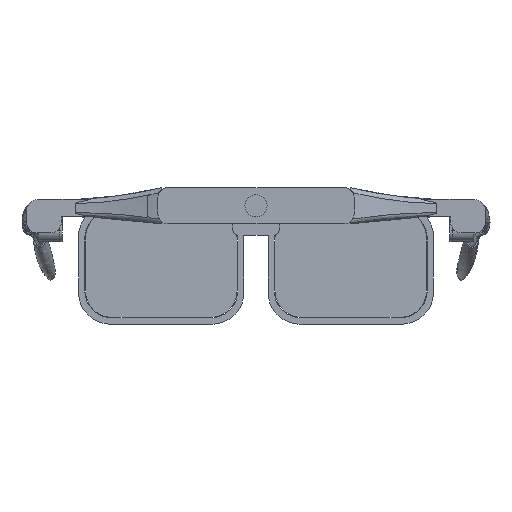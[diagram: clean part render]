
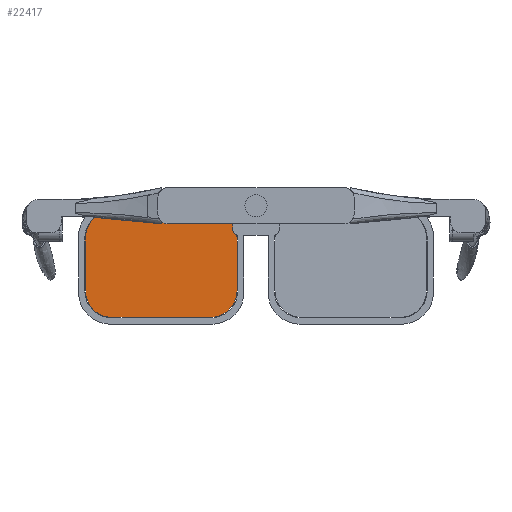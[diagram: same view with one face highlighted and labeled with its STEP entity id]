
A CAD part, front view. The second image highlights one B-rep face of the part: STEP entity #22417.
In plain terms, the highlighted planar face has unit normal (0, -1, 0).
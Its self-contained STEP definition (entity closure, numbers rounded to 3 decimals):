
#22165 = EDGE_CURVE('',#22166,#22168,#22170,.T.);
#22166 = VERTEX_POINT('',#22167);
#22167 = CARTESIAN_POINT('',(-56.7,1.,-8.8));
#22168 = VERTEX_POINT('',#22169);
#22169 = CARTESIAN_POINT('',(-47.9,1.,-17.6));
#22170 = CIRCLE('',#22171,8.8);
#22171 = AXIS2_PLACEMENT_3D('',#22172,#22173,#22174);
#22172 = CARTESIAN_POINT('',(-47.9,1.,-8.8));
#22173 = DIRECTION('',(0.,-1.,0.));
#22174 = DIRECTION('',(1.,0.,0.));
#22216 = EDGE_CURVE('',#22168,#22217,#22219,.T.);
#22217 = VERTEX_POINT('',#22218);
#22218 = CARTESIAN_POINT('',(-15.1,1.,-17.6));
#22219 = LINE('',#22220,#22221);
#22220 = CARTESIAN_POINT('',(-47.9,1.,-17.6));
#22221 = VECTOR('',#22222,1.);
#22222 = DIRECTION('',(1.,0.,0.));
#22248 = VERTEX_POINT('',#22249);
#22249 = CARTESIAN_POINT('',(-56.7,1.,8.8));
#22255 = EDGE_CURVE('',#22166,#22248,#22256,.T.);
#22256 = LINE('',#22257,#22258);
#22257 = CARTESIAN_POINT('',(-56.7,1.,-8.8));
#22258 = VECTOR('',#22259,1.);
#22259 = DIRECTION('',(0.,0.,1.));
#22269 = EDGE_CURVE('',#22217,#22270,#22272,.T.);
#22270 = VERTEX_POINT('',#22271);
#22271 = CARTESIAN_POINT('',(-6.3,1.,-8.8));
#22272 = CIRCLE('',#22273,8.8);
#22273 = AXIS2_PLACEMENT_3D('',#22274,#22275,#22276);
#22274 = CARTESIAN_POINT('',(-15.1,1.,-8.8));
#22275 = DIRECTION('',(0.,-1.,0.));
#22276 = DIRECTION('',(1.,0.,0.));
#22302 = EDGE_CURVE('',#22303,#22248,#22305,.T.);
#22303 = VERTEX_POINT('',#22304);
#22304 = CARTESIAN_POINT('',(-47.9,1.,17.6));
#22305 = CIRCLE('',#22306,8.8);
#22306 = AXIS2_PLACEMENT_3D('',#22307,#22308,#22309);
#22307 = CARTESIAN_POINT('',(-47.9,1.,8.8));
#22308 = DIRECTION('',(0.,-1.,0.));
#22309 = DIRECTION('',(1.,0.,0.));
#22344 = EDGE_CURVE('',#22303,#22345,#22347,.T.);
#22345 = VERTEX_POINT('',#22346);
#22346 = CARTESIAN_POINT('',(-15.1,1.,17.6));
#22347 = LINE('',#22348,#22349);
#22348 = CARTESIAN_POINT('',(-47.9,1.,17.6));
#22349 = VECTOR('',#22350,1.);
#22350 = DIRECTION('',(1.,0.,0.));
#22376 = VERTEX_POINT('',#22377);
#22377 = CARTESIAN_POINT('',(-6.3,1.,8.8));
#22383 = EDGE_CURVE('',#22270,#22376,#22384,.T.);
#22384 = LINE('',#22385,#22386);
#22385 = CARTESIAN_POINT('',(-6.3,1.,-8.8));
#22386 = VECTOR('',#22387,1.);
#22387 = DIRECTION('',(0.,0.,1.));
#22397 = EDGE_CURVE('',#22376,#22345,#22398,.T.);
#22398 = CIRCLE('',#22399,8.8);
#22399 = AXIS2_PLACEMENT_3D('',#22400,#22401,#22402);
#22400 = CARTESIAN_POINT('',(-15.1,1.,8.8));
#22401 = DIRECTION('',(0.,-1.,0.));
#22402 = DIRECTION('',(1.,0.,0.));
#22417 = ADVANCED_FACE('',(#22418),#22428,.T.);
#22418 = FACE_BOUND('',#22419,.T.);
#22419 = EDGE_LOOP('',(#22420,#22421,#22422,#22423,#22424,#22425,#22426,
    #22427));
#22420 = ORIENTED_EDGE('',*,*,#22165,.T.);
#22421 = ORIENTED_EDGE('',*,*,#22216,.T.);
#22422 = ORIENTED_EDGE('',*,*,#22269,.T.);
#22423 = ORIENTED_EDGE('',*,*,#22383,.T.);
#22424 = ORIENTED_EDGE('',*,*,#22397,.T.);
#22425 = ORIENTED_EDGE('',*,*,#22344,.F.);
#22426 = ORIENTED_EDGE('',*,*,#22302,.T.);
#22427 = ORIENTED_EDGE('',*,*,#22255,.F.);
#22428 = PLANE('',#22429);
#22429 = AXIS2_PLACEMENT_3D('',#22430,#22431,#22432);
#22430 = CARTESIAN_POINT('',(-31.5,1.,0.));
#22431 = DIRECTION('',(0.,-1.,0.));
#22432 = DIRECTION('',(1.,0.,0.));
